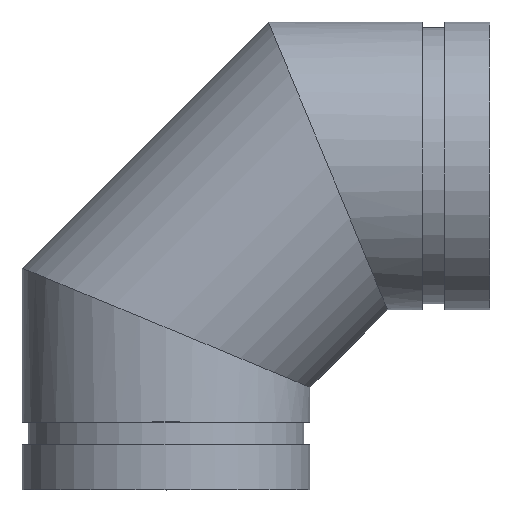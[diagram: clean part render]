
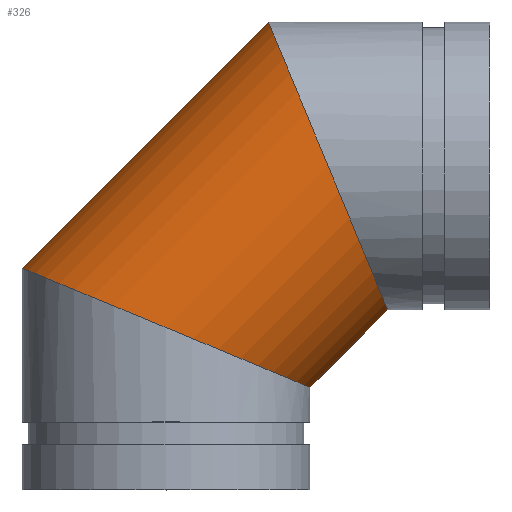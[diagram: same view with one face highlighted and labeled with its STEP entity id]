
A CAD part, top view. The second image highlights one B-rep face of the part: STEP entity #326.
In plain terms, the highlighted cylindrical face has radius 50.8 mm (diameter 101.6 mm), a full revolution.
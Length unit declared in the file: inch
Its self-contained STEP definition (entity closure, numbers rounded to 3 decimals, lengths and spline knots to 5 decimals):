
#51=ELLIPSE('',#383,2.16478,2.);
#52=ELLIPSE('',#384,2.16478,2.);
#53=ELLIPSE('',#385,2.16478,2.);
#54=ELLIPSE('',#388,2.16478,2.);
#55=ELLIPSE('',#389,2.16478,2.);
#56=ELLIPSE('',#390,2.16478,2.);
#82=FACE_OUTER_BOUND('',#103,.T.);
#103=EDGE_LOOP('',(#269,#270,#271,#272,#273,#274,#275,#276));
#115=LINE('',#606,#125);
#125=VECTOR('',#494,2.);
#165=VERTEX_POINT('',#596);
#166=VERTEX_POINT('',#598);
#167=VERTEX_POINT('',#600);
#168=VERTEX_POINT('',#605);
#169=VERTEX_POINT('',#607);
#170=VERTEX_POINT('',#609);
#201=EDGE_CURVE('',#165,#166,#51,.T.);
#202=EDGE_CURVE('',#167,#166,#52,.T.);
#203=EDGE_CURVE('',#167,#165,#53,.T.);
#204=EDGE_CURVE('',#165,#168,#115,.T.);
#205=EDGE_CURVE('',#168,#169,#54,.T.);
#206=EDGE_CURVE('',#170,#169,#55,.T.);
#207=EDGE_CURVE('',#170,#168,#56,.T.);
#269=ORIENTED_EDGE('',*,*,#203,.F.);
#270=ORIENTED_EDGE('',*,*,#202,.T.);
#271=ORIENTED_EDGE('',*,*,#201,.F.);
#272=ORIENTED_EDGE('',*,*,#204,.T.);
#273=ORIENTED_EDGE('',*,*,#205,.T.);
#274=ORIENTED_EDGE('',*,*,#206,.F.);
#275=ORIENTED_EDGE('',*,*,#207,.T.);
#276=ORIENTED_EDGE('',*,*,#204,.F.);
#293=CYLINDRICAL_SURFACE('',#387,2.);
#326=ADVANCED_FACE('',(#82),#293,.T.);
#383=AXIS2_PLACEMENT_3D('',#599,#484,#485);
#384=AXIS2_PLACEMENT_3D('',#601,#486,#487);
#385=AXIS2_PLACEMENT_3D('',#602,#488,#489);
#387=AXIS2_PLACEMENT_3D('',#604,#492,#493);
#388=AXIS2_PLACEMENT_3D('',#608,#495,#496);
#389=AXIS2_PLACEMENT_3D('',#610,#497,#498);
#390=AXIS2_PLACEMENT_3D('',#611,#499,#500);
#484=DIRECTION('center_axis',(-0.383,-0.924,0.));
#485=DIRECTION('ref_axis',(0.924,-0.383,0.));
#486=DIRECTION('center_axis',(0.383,0.924,0.));
#487=DIRECTION('ref_axis',(0.924,-0.383,0.));
#488=DIRECTION('center_axis',(-0.383,-0.924,0.));
#489=DIRECTION('ref_axis',(0.924,-0.383,0.));
#492=DIRECTION('center_axis',(-0.707,-0.707,0.));
#493=DIRECTION('ref_axis',(0.707,-0.707,0.));
#494=DIRECTION('',(0.707,0.707,0.));
#495=DIRECTION('center_axis',(-0.924,-0.383,0.));
#496=DIRECTION('ref_axis',(0.383,-0.924,0.));
#497=DIRECTION('center_axis',(0.924,0.383,0.));
#498=DIRECTION('ref_axis',(0.383,-0.924,0.));
#499=DIRECTION('center_axis',(-0.924,-0.383,0.));
#500=DIRECTION('ref_axis',(0.383,-0.924,0.));
#596=CARTESIAN_POINT('',(-2.,-1.42157,0.));
#598=CARTESIAN_POINT('',(0.,-2.25,-2.));
#599=CARTESIAN_POINT('Origin',(0.,-2.25,0.));
#600=CARTESIAN_POINT('',(0.,-2.25,2.));
#601=CARTESIAN_POINT('Origin',(0.,-2.25,0.));
#602=CARTESIAN_POINT('Origin',(0.,-2.25,0.));
#604=CARTESIAN_POINT('Origin',(2.25,0.,0.));
#605=CARTESIAN_POINT('',(1.42157,2.,0.));
#606=CARTESIAN_POINT('',(0.83579,1.41421,0.));
#607=CARTESIAN_POINT('',(2.25,0.,-2.));
#608=CARTESIAN_POINT('Origin',(2.25,0.,0.));
#609=CARTESIAN_POINT('',(2.25,0.,2.));
#610=CARTESIAN_POINT('Origin',(2.25,0.,0.));
#611=CARTESIAN_POINT('Origin',(2.25,0.,0.));
